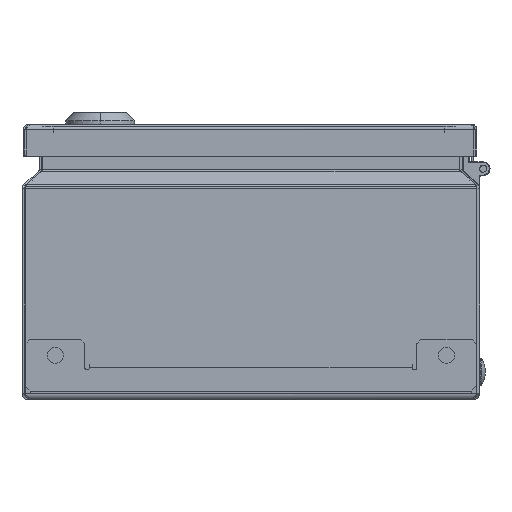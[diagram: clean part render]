
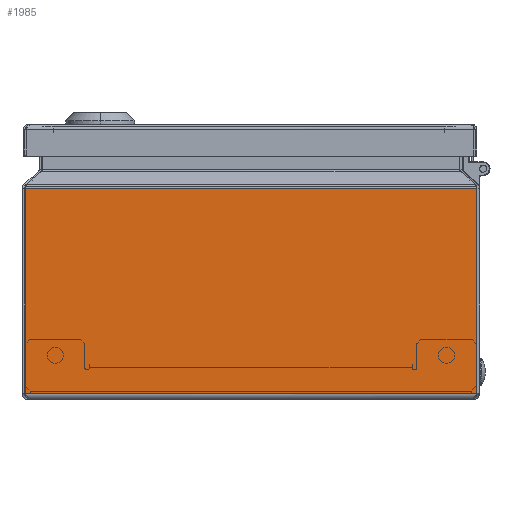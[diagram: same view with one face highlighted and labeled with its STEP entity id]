
A CAD part, left-side view. The second image highlights one B-rep face of the part: STEP entity #1985.
In plain terms, the highlighted planar face has unit normal (-1, 0, 0).
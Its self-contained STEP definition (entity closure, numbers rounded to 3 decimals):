
#781 = PLANE ( 'NONE',  #78472 ) ;
#1474 = CARTESIAN_POINT ( 'NONE',  ( -200., 98.6, 92.119 ) ) ;
#1591 = CARTESIAN_POINT ( 'NONE',  ( -200., -98.6, 2.4 ) ) ;
#1755 = VERTEX_POINT ( 'NONE', #84065 ) ;
#1985 = ADVANCED_FACE ( 'NONE', ( #60100 ), #781, .F. ) ;
#3348 = LINE ( 'NONE', #34473, #12872 ) ;
#5737 = VERTEX_POINT ( 'NONE', #1591 ) ;
#5836 = VERTEX_POINT ( 'NONE', #18827 ) ;
#9288 = ORIENTED_EDGE ( 'NONE', *, *, #73309, .T. ) ;
#9369 = VECTOR ( 'NONE', #41716, 1000. ) ;
#10699 = LINE ( 'NONE', #63927, #40631 ) ;
#12872 = VECTOR ( 'NONE', #29715, 1000. ) ;
#13180 = LINE ( 'NONE', #1474, #66631 ) ;
#17319 = EDGE_CURVE ( 'NONE', #62868, #5737, #3348, .T. ) ;
#17612 = DIRECTION ( 'NONE',  ( 0., 1., 0. ) ) ;
#18827 = CARTESIAN_POINT ( 'NONE',  ( -200., 98.6, 2.4 ) ) ;
#18898 = ORIENTED_EDGE ( 'NONE', *, *, #75056, .T. ) ;
#29715 = DIRECTION ( 'NONE',  ( 0., 0., -1. ) ) ;
#34473 = CARTESIAN_POINT ( 'NONE',  ( -200., -98.6, 92.119 ) ) ;
#35193 = CARTESIAN_POINT ( 'NONE',  ( -200., -2100., 2.4 ) ) ;
#40631 = VECTOR ( 'NONE', #17612, 1000. ) ;
#41716 = DIRECTION ( 'NONE',  ( 0., 1., 0. ) ) ;
#46194 = DIRECTION ( 'NONE',  ( 0., 0., -1. ) ) ;
#46860 = EDGE_CURVE ( 'NONE', #5737, #5836, #60787, .T. ) ;
#52098 = DIRECTION ( 'NONE',  ( 0., 0., -1. ) ) ;
#58839 = DIRECTION ( 'NONE',  ( 1., 0., 0. ) ) ;
#59488 = ORIENTED_EDGE ( 'NONE', *, *, #46860, .F. ) ;
#60100 = FACE_OUTER_BOUND ( 'NONE', #75111, .T. ) ;
#60787 = LINE ( 'NONE', #35193, #9369 ) ;
#60941 = CARTESIAN_POINT ( 'NONE',  ( -200., -98.6, 92.119 ) ) ;
#62868 = VERTEX_POINT ( 'NONE', #60941 ) ;
#63927 = CARTESIAN_POINT ( 'NONE',  ( -200., -2100., 92.119 ) ) ;
#66631 = VECTOR ( 'NONE', #52098, 1000. ) ;
#69653 = ORIENTED_EDGE ( 'NONE', *, *, #17319, .F. ) ;
#73149 = CARTESIAN_POINT ( 'NONE',  ( -200., -2100., 92.119 ) ) ;
#73309 = EDGE_CURVE ( 'NONE', #1755, #5836, #13180, .T. ) ;
#75056 = EDGE_CURVE ( 'NONE', #62868, #1755, #10699, .T. ) ;
#75111 = EDGE_LOOP ( 'NONE', ( #9288, #59488, #69653, #18898 ) ) ;
#78472 = AXIS2_PLACEMENT_3D ( 'NONE', #73149, #58839, #46194 ) ;
#84065 = CARTESIAN_POINT ( 'NONE',  ( -200., 98.6, 92.119 ) ) ;
